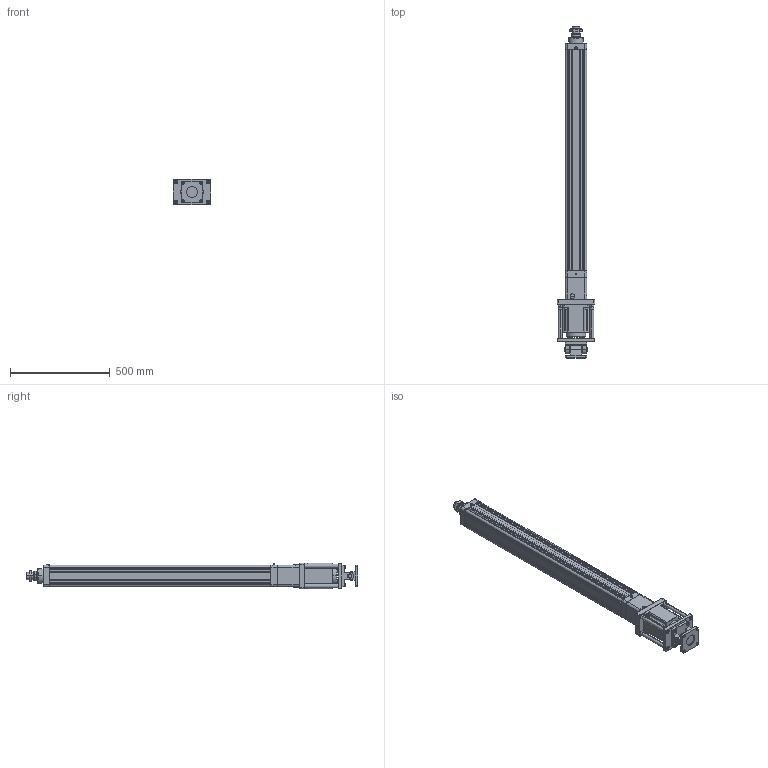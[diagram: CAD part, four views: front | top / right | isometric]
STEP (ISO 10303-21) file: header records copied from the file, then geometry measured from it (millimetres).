
FILE_DESCRIPTION((''),'2;1');
FILE_NAME('HE100-D-P_ASM','2020-05-13T',('ASUS20200'),(''),'CREO PARAMETRIC BY PTC INC, 2014190','CREO PARAMETRIC BY PTC INC, 2014190','');
FILE_SCHEMA(('CONFIG_CONTROL_DESIGN'));
Length unit declared in the file: millimetre
Products named in the file (27): HE100-D-P-001-X1; HE100-D-P-002-X1; HE100-D-P-003-X1; 30305J; JDB506030; SLM-01; YZ-M6X1; HE100-100-D-P-X1_ASM; HE100-D-009-X1; HE100-D-010-X1-130N; M8X20; 130ST-M10010; TD-8; M8X40; SKT-20; HE100-D-P-005-X1; HE100-D-P-004-X1; HE80-D-P-008-X1; LGLM-M10-25; HE100-FB-LG; F-HE100FB; M10X30; F-SE100CB; F-SE100CB-XD; F-SE100CB_ASM; F-SE100CA; HE100-D-P_ASM
Assembly tree (54 placements, depth 3):
  HE100-D-P_ASM
    HE100-100-D-P-X1_ASM
      HE100-D-P-001-X1
      HE100-D-P-002-X1
      HE100-D-P-003-X1
      30305J  x2
      JDB506030
      SLM-01
      YZ-M6X1
    HE100-D-009-X1
    HE100-D-010-X1-130N
    M8X20  x4
    130ST-M10010
    TD-8  x4
    M8X40  x4
    SKT-20  x2
    HE100-D-P-005-X1
    HE100-D-P-004-X1
    HE80-D-P-008-X1
    LGLM-M10-25  x4
    HE100-FB-LG  x4
    F-HE100FB
    M10X30  x12
    F-SE100CB_ASM
      F-SE100CB
      F-SE100CB-XD
    F-SE100CA
Bounding box: 190 x 1664 x 130 mm (x, y, z)
Volume: 9121825.6 mm3; surface area: 2194417.1 mm2
Topology: 52 solids, 87 shells, 2284 faces, 5234 edges, 3189 vertices
Faces by surface type: plane 757, cylinder 696, cone 663, torus 134, sphere 30, bspline 4
Entity records: 48284 total; most frequent: CARTESIAN_POINT 8958, DIRECTION 8865, ORIENTED_EDGE 7438, EDGE_CURVE 3774, AXIS2_PLACEMENT_3D 3489, VERTEX_POINT 2299, EDGE_LOOP 1935, VECTOR 1887
